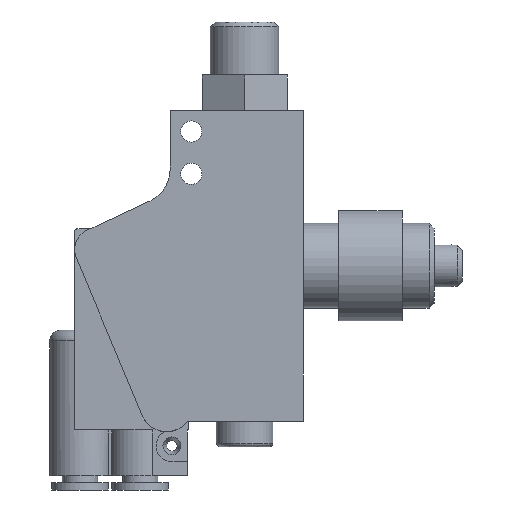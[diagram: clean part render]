
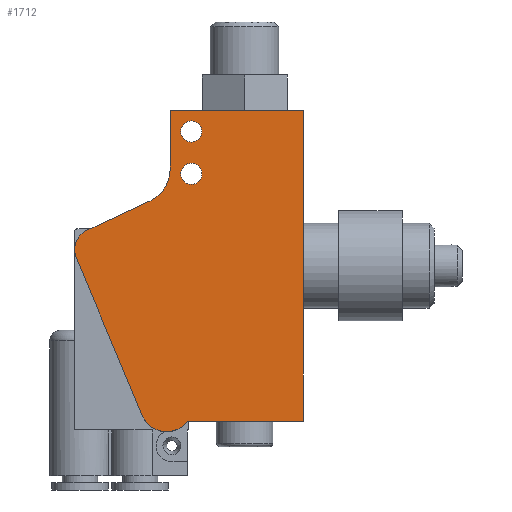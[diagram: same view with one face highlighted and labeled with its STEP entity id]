
A CAD part, left-side view. The second image highlights one B-rep face of the part: STEP entity #1712.
In plain terms, the highlighted planar face has unit normal (-1, 0, 0).
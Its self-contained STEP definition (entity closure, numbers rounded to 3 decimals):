
#61=FACE_BOUND('',#359,.T.);
#62=FACE_BOUND('',#360,.T.);
#122=CIRCLE('',#1844,3.75);
#154=CIRCLE('',#1899,3.);
#155=CIRCLE('',#1903,1.5);
#157=CIRCLE('',#1906,1.5);
#159=CIRCLE('',#1913,5.);
#250=FACE_OUTER_BOUND('',#358,.T.);
#358=EDGE_LOOP('',(#1539,#1540,#1541,#1542,#1543,#1544,#1545,#1546,#1547));
#359=EDGE_LOOP('',(#1548));
#360=EDGE_LOOP('',(#1549));
#405=LINE('',#2578,#553);
#428=LINE('',#2639,#576);
#506=LINE('',#2928,#654);
#510=LINE('',#2945,#658);
#513=LINE('',#2950,#661);
#514=LINE('',#2953,#662);
#553=VECTOR('',#2057,10.);
#576=VECTOR('',#2112,10.);
#654=VECTOR('',#2390,10.);
#658=VECTOR('',#2408,10.);
#661=VECTOR('',#2415,10.);
#662=VECTOR('',#2418,10.);
#708=VERTEX_POINT('',#2571);
#711=VERTEX_POINT('',#2576);
#732=VERTEX_POINT('',#2636);
#733=VERTEX_POINT('',#2638);
#786=VERTEX_POINT('',#2787);
#823=VERTEX_POINT('',#2920);
#824=VERTEX_POINT('',#2922);
#825=VERTEX_POINT('',#2930);
#827=VERTEX_POINT('',#2936);
#829=VERTEX_POINT('',#2942);
#831=VERTEX_POINT('',#2952);
#898=EDGE_CURVE('',#708,#711,#405,.T.);
#927=EDGE_CURVE('',#733,#732,#428,.T.);
#1001=EDGE_CURVE('',#786,#733,#122,.T.);
#1057=EDGE_CURVE('',#824,#823,#154,.T.);
#1060=EDGE_CURVE('',#823,#786,#506,.T.);
#1061=EDGE_CURVE('',#825,#825,#155,.T.);
#1064=EDGE_CURVE('',#827,#827,#157,.T.);
#1068=EDGE_CURVE('',#711,#829,#510,.T.);
#1071=EDGE_CURVE('',#732,#708,#513,.T.);
#1072=EDGE_CURVE('',#831,#824,#514,.T.);
#1075=EDGE_CURVE('',#829,#831,#159,.T.);
#1539=ORIENTED_EDGE('',*,*,#1075,.T.);
#1540=ORIENTED_EDGE('',*,*,#1072,.T.);
#1541=ORIENTED_EDGE('',*,*,#1057,.T.);
#1542=ORIENTED_EDGE('',*,*,#1060,.T.);
#1543=ORIENTED_EDGE('',*,*,#1001,.T.);
#1544=ORIENTED_EDGE('',*,*,#927,.T.);
#1545=ORIENTED_EDGE('',*,*,#1071,.T.);
#1546=ORIENTED_EDGE('',*,*,#898,.T.);
#1547=ORIENTED_EDGE('',*,*,#1068,.T.);
#1548=ORIENTED_EDGE('',*,*,#1061,.T.);
#1549=ORIENTED_EDGE('',*,*,#1064,.T.);
#1621=PLANE('',#1912);
#1712=ADVANCED_FACE('',(#250,#61,#62),#1621,.F.);
#1844=AXIS2_PLACEMENT_3D('',#2788,#2250,#2251);
#1899=AXIS2_PLACEMENT_3D('',#2923,#2382,#2383);
#1903=AXIS2_PLACEMENT_3D('',#2931,#2393,#2394);
#1906=AXIS2_PLACEMENT_3D('',#2937,#2400,#2401);
#1912=AXIS2_PLACEMENT_3D('',#2957,#2421,#2422);
#1913=AXIS2_PLACEMENT_3D('',#2958,#2423,#2424);
#2057=DIRECTION('',(0.,1.,0.));
#2112=DIRECTION('',(0.,-1.,0.));
#2250=DIRECTION('center_axis',(-1.,0.,0.));
#2251=DIRECTION('ref_axis',(0.,-0.8,-0.6));
#2382=DIRECTION('center_axis',(-1.,0.,0.));
#2383=DIRECTION('ref_axis',(0.,0.923,-0.386));
#2390=DIRECTION('',(0.,-0.386,-0.923));
#2393=DIRECTION('center_axis',(1.,0.,0.));
#2394=DIRECTION('ref_axis',(0.,-1.,0.));
#2400=DIRECTION('center_axis',(1.,0.,0.));
#2401=DIRECTION('ref_axis',(0.,-1.,0.));
#2408=DIRECTION('',(0.,0.,-1.));
#2415=DIRECTION('',(0.,0.,1.));
#2418=DIRECTION('',(0.,0.906,-0.423));
#2421=DIRECTION('center_axis',(1.,0.,0.));
#2422=DIRECTION('ref_axis',(0.,0.,-1.));
#2423=DIRECTION('center_axis',(1.,0.,0.));
#2424=DIRECTION('ref_axis',(0.,1.,0.));
#2571=CARTESIAN_POINT('',(-8.25,-10.2,11.65));
#2576=CARTESIAN_POINT('',(-8.25,8.65,11.65));
#2578=CARTESIAN_POINT('',(-8.25,8.65,11.65));
#2636=CARTESIAN_POINT('',(-8.25,-10.2,-32.35));
#2638=CARTESIAN_POINT('',(-8.25,6.15,-32.35));
#2639=CARTESIAN_POINT('',(-8.25,-10.2,-32.35));
#2787=CARTESIAN_POINT('',(-8.25,12.61,-31.546));
#2788=CARTESIAN_POINT('Origin',(-8.25,9.15,-30.1));
#2920=CARTESIAN_POINT('',(-8.25,21.939,-9.223));
#2922=CARTESIAN_POINT('',(-8.25,20.439,-5.347));
#2923=CARTESIAN_POINT('Origin',(-8.25,19.171,-8.066));
#2928=CARTESIAN_POINT('',(-8.25,12.61,-31.546));
#2930=CARTESIAN_POINT('',(-8.25,7.15,2.65));
#2931=CARTESIAN_POINT('Origin',(-8.25,5.65,2.65));
#2936=CARTESIAN_POINT('',(-8.25,7.15,8.65));
#2937=CARTESIAN_POINT('Origin',(-8.25,5.65,8.65));
#2942=CARTESIAN_POINT('',(-8.25,8.65,3.335));
#2945=CARTESIAN_POINT('',(-8.25,8.65,-32.35));
#2950=CARTESIAN_POINT('',(-8.25,-10.2,11.65));
#2952=CARTESIAN_POINT('',(-8.25,11.537,-1.196));
#2953=CARTESIAN_POINT('',(-8.25,20.439,-5.347));
#2957=CARTESIAN_POINT('Origin',(-8.25,9.485,0.682));
#2958=CARTESIAN_POINT('Origin',(-8.25,13.65,3.335));
